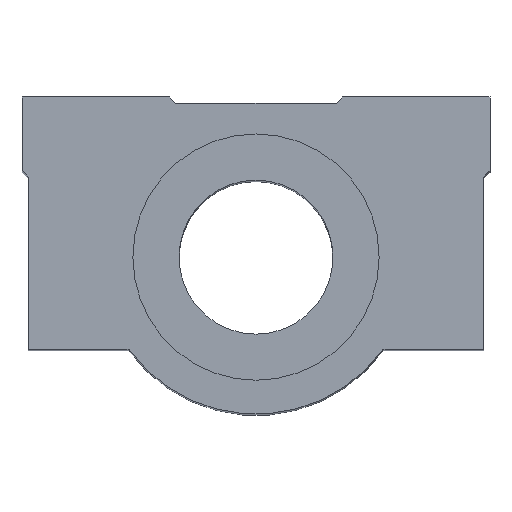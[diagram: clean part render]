
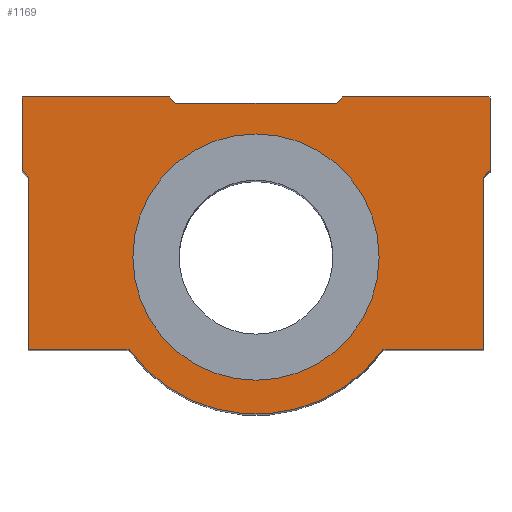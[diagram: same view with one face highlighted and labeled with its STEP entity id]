
A CAD part, top view. The second image highlights one B-rep face of the part: STEP entity #1169.
In plain terms, the highlighted planar face has unit normal (0, 0, 1).
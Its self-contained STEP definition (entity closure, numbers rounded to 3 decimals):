
#91=CARTESIAN_POINT('',(-20.709,4.198,134.0));
#92=VERTEX_POINT('',#91);
#101=CARTESIAN_POINT('',(19.291,4.198,134.));
#102=VERTEX_POINT('',#101);
#103=CARTESIAN_POINT('',(-0.709,4.198,134.));
#104=DIRECTION('',(0.0,0.0,-1.0));
#105=DIRECTION('',(-1.0,0.0,0.0));
#106=AXIS2_PLACEMENT_3D('',#103,#104,#105);
#107=CIRCLE('',#106,20.0);
#108=EDGE_CURVE('',#102,#92,#107,.T.);
#640=CARTESIAN_POINT('',(-0.709,4.198,134.));
#641=DIRECTION('',(0.0,0.0,-1.0));
#642=DIRECTION('',(-1.0,0.0,0.0));
#643=AXIS2_PLACEMENT_3D('',#640,#641,#642);
#644=CIRCLE('',#643,20.0);
#645=EDGE_CURVE('',#92,#102,#644,.T.);
#780=CARTESIAN_POINT('',(37.291,18.198,134.));
#781=VERTEX_POINT('',#780);
#782=CARTESIAN_POINT('',(36.291,17.198,134.));
#783=VERTEX_POINT('',#782);
#784=CARTESIAN_POINT('',(37.291,18.198,134.));
#785=DIRECTION('',(-0.707,-0.707,0.0));
#786=VECTOR('',#785,1.414);
#787=LINE('',#784,#786);
#788=EDGE_CURVE('',#781,#783,#787,.T.);
#811=CARTESIAN_POINT('',(36.291,-10.802,134.));
#812=VERTEX_POINT('',#811);
#813=CARTESIAN_POINT('',(36.291,17.198,134.));
#814=DIRECTION('',(0.0,-1.0,0.0));
#815=VECTOR('',#814,28.);
#816=LINE('',#813,#815);
#817=EDGE_CURVE('',#783,#812,#816,.T.);
#835=CARTESIAN_POINT('',(19.913,-10.802,134.));
#836=VERTEX_POINT('',#835);
#837=CARTESIAN_POINT('',(36.291,-10.802,134.));
#838=DIRECTION('',(-1.0,0.0,0.0));
#839=VECTOR('',#838,16.378);
#840=LINE('',#837,#839);
#841=EDGE_CURVE('',#812,#836,#840,.T.);
#867=CARTESIAN_POINT('',(-21.33,-10.802,134.));
#868=VERTEX_POINT('',#867);
#869=CARTESIAN_POINT('',(-0.709,4.198,134.));
#870=DIRECTION('',(0.0,0.0,-1.0));
#871=DIRECTION('',(0.809,0.588,0.0));
#872=AXIS2_PLACEMENT_3D('',#869,#870,#871);
#873=CIRCLE('',#872,25.5);
#874=EDGE_CURVE('',#836,#868,#873,.T.);
#892=CARTESIAN_POINT('',(-37.709,-10.802,134.));
#893=VERTEX_POINT('',#892);
#894=CARTESIAN_POINT('',(-21.33,-10.802,134.));
#895=DIRECTION('',(-1.0,0.0,0.0));
#896=VECTOR('',#895,16.378);
#897=LINE('',#894,#896);
#898=EDGE_CURVE('',#868,#893,#897,.T.);
#924=CARTESIAN_POINT('',(-37.709,17.198,134.));
#925=VERTEX_POINT('',#924);
#926=CARTESIAN_POINT('',(-37.709,-10.802,134.));
#927=DIRECTION('',(0.0,1.0,0.0));
#928=VECTOR('',#927,28.);
#929=LINE('',#926,#928);
#930=EDGE_CURVE('',#893,#925,#929,.T.);
#948=CARTESIAN_POINT('',(-38.709,18.198,134.));
#949=VERTEX_POINT('',#948);
#950=CARTESIAN_POINT('',(-37.709,17.198,134.));
#951=DIRECTION('',(-0.707,0.707,0.0));
#952=VECTOR('',#951,1.414);
#953=LINE('',#950,#952);
#954=EDGE_CURVE('',#925,#949,#953,.T.);
#972=CARTESIAN_POINT('',(-38.709,30.198,134.));
#973=VERTEX_POINT('',#972);
#974=CARTESIAN_POINT('',(-38.709,18.198,134.));
#975=DIRECTION('',(0.0,1.0,0.0));
#976=VECTOR('',#975,12.);
#977=LINE('',#974,#976);
#978=EDGE_CURVE('',#949,#973,#977,.T.);
#996=CARTESIAN_POINT('',(-14.709,30.198,134.));
#997=VERTEX_POINT('',#996);
#998=CARTESIAN_POINT('',(-38.709,30.198,134.));
#999=DIRECTION('',(1.0,0.0,0.0));
#1000=VECTOR('',#999,24.);
#1001=LINE('',#998,#1000);
#1002=EDGE_CURVE('',#973,#997,#1001,.T.);
#1028=CARTESIAN_POINT('',(-13.709,29.198,134.));
#1029=VERTEX_POINT('',#1028);
#1030=CARTESIAN_POINT('',(-14.709,30.198,134.));
#1031=DIRECTION('',(0.707,-0.707,0.0));
#1032=VECTOR('',#1031,1.414);
#1033=LINE('',#1030,#1032);
#1034=EDGE_CURVE('',#997,#1029,#1033,.T.);
#1052=CARTESIAN_POINT('',(12.291,29.198,134.));
#1053=VERTEX_POINT('',#1052);
#1054=CARTESIAN_POINT('',(-13.709,29.198,134.));
#1055=DIRECTION('',(1.0,0.0,0.0));
#1056=VECTOR('',#1055,26.0);
#1057=LINE('',#1054,#1056);
#1058=EDGE_CURVE('',#1029,#1053,#1057,.T.);
#1076=CARTESIAN_POINT('',(13.291,30.198,134.));
#1077=VERTEX_POINT('',#1076);
#1078=CARTESIAN_POINT('',(12.291,29.198,134.));
#1079=DIRECTION('',(0.707,0.707,0.0));
#1080=VECTOR('',#1079,1.414);
#1081=LINE('',#1078,#1080);
#1082=EDGE_CURVE('',#1053,#1077,#1081,.T.);
#1100=CARTESIAN_POINT('',(37.291,30.198,134.));
#1101=VERTEX_POINT('',#1100);
#1102=CARTESIAN_POINT('',(13.291,30.198,134.));
#1103=DIRECTION('',(1.0,0.0,0.0));
#1104=VECTOR('',#1103,24.0);
#1105=LINE('',#1102,#1104);
#1106=EDGE_CURVE('',#1077,#1101,#1105,.T.);
#1132=CARTESIAN_POINT('',(37.291,30.198,134.));
#1133=DIRECTION('',(0.0,-1.0,0.0));
#1134=VECTOR('',#1133,12.);
#1135=LINE('',#1132,#1134);
#1136=EDGE_CURVE('',#1101,#781,#1135,.T.);
#1144=CARTESIAN_POINT('',(-0.709,8.034,134.));
#1145=DIRECTION('',(0.0,0.0,1.0));
#1146=DIRECTION('',(1.0,0.0,0.0));
#1147=AXIS2_PLACEMENT_3D('',#1144,#1145,#1146);
#1148=PLANE('',#1147);
#1149=ORIENTED_EDGE('',*,*,#788,.F.);
#1150=ORIENTED_EDGE('',*,*,#1136,.F.);
#1151=ORIENTED_EDGE('',*,*,#1106,.F.);
#1152=ORIENTED_EDGE('',*,*,#1082,.F.);
#1153=ORIENTED_EDGE('',*,*,#1058,.F.);
#1154=ORIENTED_EDGE('',*,*,#1034,.F.);
#1155=ORIENTED_EDGE('',*,*,#1002,.F.);
#1156=ORIENTED_EDGE('',*,*,#978,.F.);
#1157=ORIENTED_EDGE('',*,*,#954,.F.);
#1158=ORIENTED_EDGE('',*,*,#930,.F.);
#1159=ORIENTED_EDGE('',*,*,#898,.F.);
#1160=ORIENTED_EDGE('',*,*,#874,.F.);
#1161=ORIENTED_EDGE('',*,*,#841,.F.);
#1162=ORIENTED_EDGE('',*,*,#817,.F.);
#1163=EDGE_LOOP('',(#1149,#1150,#1151,#1152,#1153,#1154,#1155,#1156,#1157,#1158,#1159,#1160,#1161,#1162));
#1164=FACE_OUTER_BOUND('',#1163,.T.);
#1165=ORIENTED_EDGE('',*,*,#108,.T.);
#1166=ORIENTED_EDGE('',*,*,#645,.T.);
#1167=EDGE_LOOP('',(#1165,#1166));
#1168=FACE_BOUND('',#1167,.T.);
#1169=ADVANCED_FACE('',(#1164,#1168),#1148,.T.);
